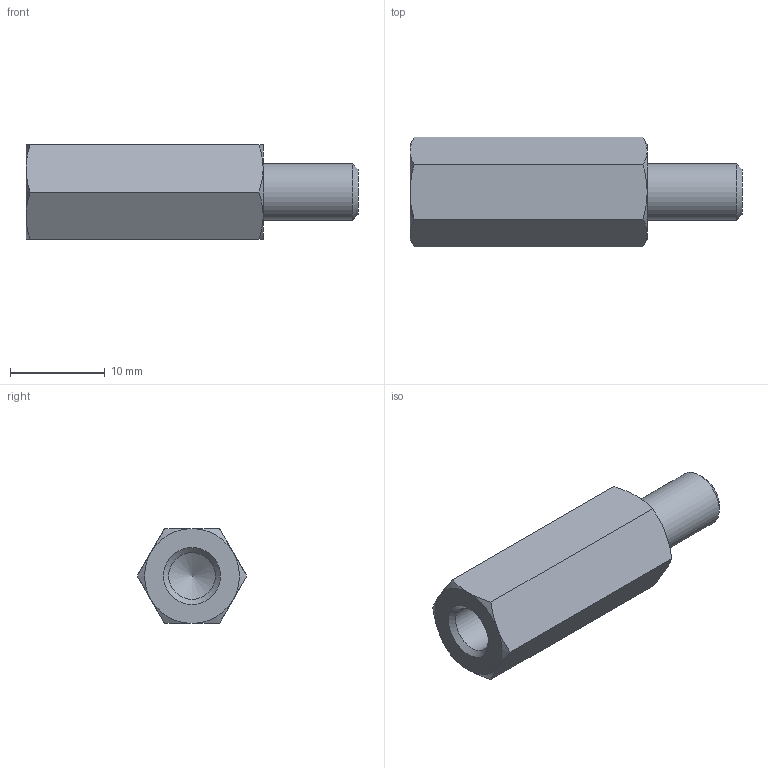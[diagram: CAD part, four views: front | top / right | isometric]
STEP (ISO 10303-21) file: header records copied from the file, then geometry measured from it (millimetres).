
FILE_DESCRIPTION( ( 'STEP AP203' ), '1' );
FILE_NAME( 'C:/Temp/Ganter_Step_05_03_2020/data/3_2/gn6220/gn6220_ni/Stainless Steel-Spacer GN 6220-NI-M6-25-B.stp', '2020-03-13T05:43:15', ( 'License CC BY-ND 4.0' ), ( 'CADENAS' ), ' ', 'PARTsolutions', ' ' );
FILE_SCHEMA( ( 'CONFIG_CONTROL_DESIGN' ) );
Length unit declared in the file: millimetre
Products named in the file (1): _Stainless Steel-Spacer GN 6220-NI-M6-25-B
Bounding box: 35 x 11.55 x 10 mm (x, y, z)
Volume: 2105.9 mm3; surface area: 1475.1 mm2
Topology: 1 solids, 1 shells, 26 faces, 55 edges, 32 vertices
Faces by surface type: cone 15, plane 9, cylinder 2
Full cylindrical faces by diameter (mm): 4.917 x1, 6 x1
Entity records: 762 total; most frequent: CARTESIAN_POINT 226, DIRECTION 96, ORIENTED_EDGE 96, EDGE_CURVE 48, AXIS2_PLACEMENT_3D 45, EDGE_LOOP 32, VERTEX_POINT 31, FACE_OUTER_BOUND 28
